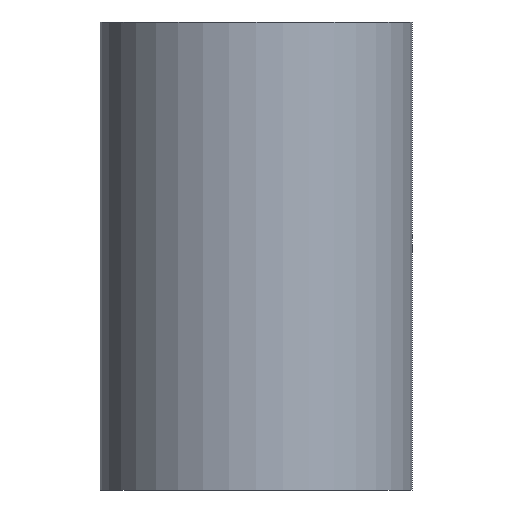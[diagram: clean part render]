
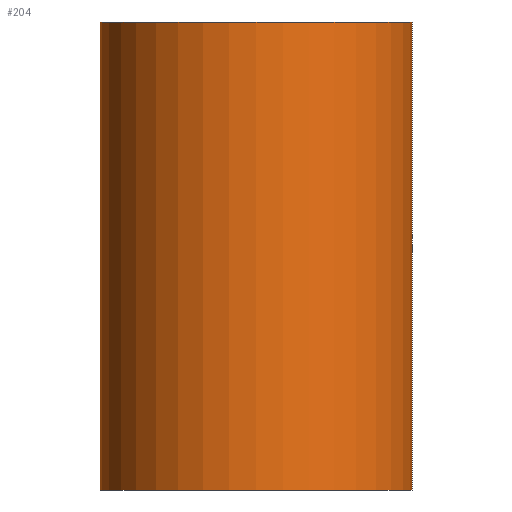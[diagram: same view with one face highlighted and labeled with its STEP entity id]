
A CAD part, front view. The second image highlights one B-rep face of the part: STEP entity #204.
In plain terms, the highlighted cylindrical face has radius 4 mm (diameter 8 mm), a full revolution.
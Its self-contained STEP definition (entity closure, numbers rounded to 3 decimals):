
#16=CYLINDRICAL_SURFACE('',#237,4.);
#22=CIRCLE('',#238,4.);
#23=CIRCLE('',#239,4.);
#24=CIRCLE('',#240,4.);
#25=CIRCLE('',#241,4.);
#34=FACE_OUTER_BOUND('',#46,.T.);
#46=EDGE_LOOP('',(#170,#171,#172,#173,#174,#175));
#70=LINE('',#350,#90);
#90=VECTOR('',#291,4.);
#105=VERTEX_POINT('',#345);
#106=VERTEX_POINT('',#346);
#107=VERTEX_POINT('',#349);
#108=VERTEX_POINT('',#351);
#130=EDGE_CURVE('',#105,#106,#22,.T.);
#131=EDGE_CURVE('',#106,#105,#23,.T.);
#132=EDGE_CURVE('',#106,#107,#70,.T.);
#133=EDGE_CURVE('',#107,#108,#24,.T.);
#134=EDGE_CURVE('',#108,#107,#25,.T.);
#170=ORIENTED_EDGE('',*,*,#130,.F.);
#171=ORIENTED_EDGE('',*,*,#131,.F.);
#172=ORIENTED_EDGE('',*,*,#132,.T.);
#173=ORIENTED_EDGE('',*,*,#133,.T.);
#174=ORIENTED_EDGE('',*,*,#134,.T.);
#175=ORIENTED_EDGE('',*,*,#132,.F.);
#204=ADVANCED_FACE('',(#34),#16,.T.);
#237=AXIS2_PLACEMENT_3D('',#344,#285,#286);
#238=AXIS2_PLACEMENT_3D('',#347,#287,#288);
#239=AXIS2_PLACEMENT_3D('',#348,#289,#290);
#240=AXIS2_PLACEMENT_3D('',#352,#292,#293);
#241=AXIS2_PLACEMENT_3D('',#353,#294,#295);
#285=DIRECTION('center_axis',(0.,0.,1.));
#286=DIRECTION('ref_axis',(1.,0.,0.));
#287=DIRECTION('center_axis',(0.,0.,1.));
#288=DIRECTION('ref_axis',(1.,0.,0.));
#289=DIRECTION('center_axis',(0.,0.,1.));
#290=DIRECTION('ref_axis',(1.,0.,0.));
#291=DIRECTION('',(0.,0.,-1.));
#292=DIRECTION('center_axis',(0.,0.,1.));
#293=DIRECTION('ref_axis',(1.,0.,0.));
#294=DIRECTION('center_axis',(0.,0.,1.));
#295=DIRECTION('ref_axis',(1.,0.,0.));
#344=CARTESIAN_POINT('Origin',(0.,0.,0.));
#345=CARTESIAN_POINT('',(4.,0.,12.));
#346=CARTESIAN_POINT('',(-4.,0.,12.));
#347=CARTESIAN_POINT('Origin',(0.,0.,12.));
#348=CARTESIAN_POINT('Origin',(0.,0.,12.));
#349=CARTESIAN_POINT('',(-4.,0.,0.));
#350=CARTESIAN_POINT('',(-4.,0.,0.));
#351=CARTESIAN_POINT('',(4.,0.,0.));
#352=CARTESIAN_POINT('Origin',(0.,0.,0.));
#353=CARTESIAN_POINT('Origin',(0.,0.,0.));
